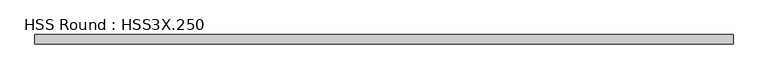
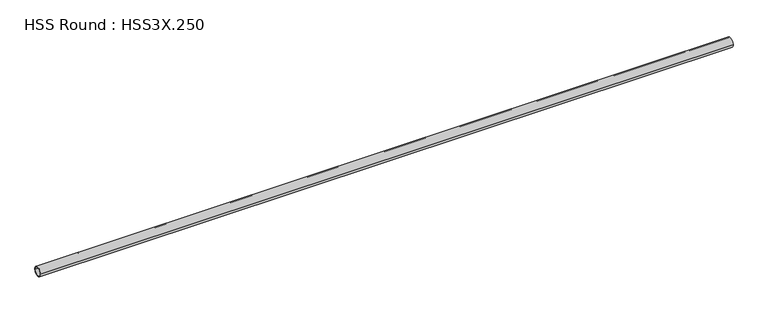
"""IFC4 building model written with IfcOpenShell, lengths in millimetres: member geometry, HSS Round : HSS3X.250."""

from ifc_helpers import new_model, si_unit, point, frame, origin, origin_2d, place, context, project, spatial, circle_curve, trimmed, segment, composite_curve, outline, extrude, source, transform, mapped, element, save


def hss_round_hss3x_250_9e1ee1a0(model_context):
    return source(origin(), model_context, "Body", "SweptSolid", [
        extrude(outline(composite_curve([segment(trimmed(circle_curve(origin_2d(), 38.1), [point((-38.1, 0.0))], [point((38.1, 0.0))], False, "CARTESIAN"), True, "CONTINUOUS"), segment(trimmed(circle_curve(origin_2d(), 38.1), [point((38.1, 0.0))], [point((-38.1, 0.0))], False, "CARTESIAN"), True, "CONTINUOUS")], self_intersect=False), holes=[composite_curve([segment(trimmed(circle_curve(origin_2d(), 31.75), [point((31.75, 0.0))], [point((-31.75, 0.0))], True, "CARTESIAN"), True, "CONTINUOUS"), segment(trimmed(circle_curve(origin_2d(), 31.75), [point((-31.75, 0.0))], [point((31.75, 0.0))], True, "CARTESIAN"), True, "CONTINUOUS")], self_intersect=False)]), frame((-2797.5336196, 0.0, 0.0), z_axis=(1.0, 0.0, 0.0), x_axis=(0.0, 1.0, 0.0)), (0.0, 0.0, 1.0), 5573.5549571),
    ])


if __name__ == "__main__":
    model = new_model("IFC4")
    model_context = context("Model", 3, world=origin())
    ifc_project = project(units=[si_unit("LENGTHUNIT", "METRE", prefix="MILLI")], contexts=[model_context])
    site = spatial("IfcSite", under=ifc_project)
    building = spatial("IfcBuilding", under=site)
    placement = place(None, origin())
    hss_round_hss3x_250_shape = hss_round_hss3x_250_9e1ee1a0(model_context)
    element("IfcMember", 1, ObjectType="HSS Round : HSS3X.250", at=placement, inside=building, context=model_context, shape_type="MappedRepresentation", body=[
        mapped(hss_round_hss3x_250_shape, transform((0.0, 0.0, 0.0), x_axis=(1.0, 0.0, 0.0), y_axis=(0.0, 1.0, 0.0), z_axis=(0.0, 0.0, 1.0))),
    ])
    save(model, "model.ifc")
